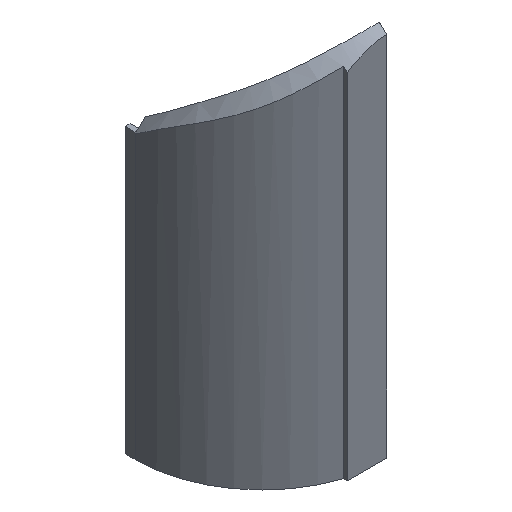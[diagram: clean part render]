
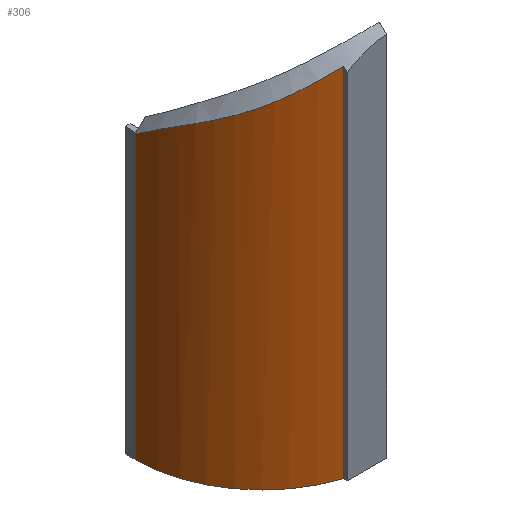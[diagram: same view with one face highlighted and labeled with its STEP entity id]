
A CAD part, isometric view. The second image highlights one B-rep face of the part: STEP entity #306.
In plain terms, the highlighted cylindrical face has radius 41.275 mm (diameter 82.55 mm), a partial arc.
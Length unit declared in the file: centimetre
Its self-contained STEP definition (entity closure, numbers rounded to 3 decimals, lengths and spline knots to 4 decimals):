
#105=CIRCLE('',#319,4.1275);
#107=CYLINDRICAL_SURFACE('',#320,4.1275);
#108=B_SPLINE_CURVE_WITH_KNOTS('',3,(#393,#394,#395,#396,#397,#398,#399,
#400,#401,#402,#403,#404,#405,#406),.UNSPECIFIED.,.F.,.U.,(4,2,2,2,2,2,4),
(0.,1.4346,2.3639,2.8681,3.5451,
5.0741,5.4483),.UNSPECIFIED.);
#115=VERTEX_POINT('',#364);
#118=VERTEX_POINT('',#407);
#131=VERTEX_POINT('',#475);
#133=VERTEX_POINT('',#484);
#135=VECTOR('',#324,1.);
#154=VECTOR('',#358,1.);
#156=LINE('',#363,#135);
#175=LINE('',#489,#154);
#180=EDGE_CURVE('',#118,#115,#108,.T.);
#199=EDGE_CURVE('',#131,#115,#156,.T.);
#203=EDGE_CURVE('',#131,#133,#105,.T.);
#206=EDGE_CURVE('',#133,#118,#175,.T.);
#258=ORIENTED_EDGE('',*,*,#180,.T.);
#259=ORIENTED_EDGE('',*,*,#199,.F.);
#260=ORIENTED_EDGE('',*,*,#203,.T.);
#261=ORIENTED_EDGE('',*,*,#206,.T.);
#280=EDGE_LOOP('',(#258,#259,#260,#261));
#293=FACE_BOUND('',#280,.T.);
#306=ADVANCED_FACE('',(#293),#107,.T.);
#319=AXIS2_PLACEMENT_3D('',#483,#352,#353);
#320=AXIS2_PLACEMENT_3D('',#488,#356,#357);
#324=DIRECTION('',(0.,0.,1.));
#352=DIRECTION('',(0.,0.,1.));
#353=DIRECTION('',(4.128,0.,0.));
#356=DIRECTION('',(0.,0.,1.));
#357=DIRECTION('',(4.128,0.,0.));
#358=DIRECTION('',(0.,0.,1.));
#363=CARTESIAN_POINT('',(12.6467,4.6025,0.));
#364=CARTESIAN_POINT('',(12.6467,4.6025,31.4533));
#393=CARTESIAN_POINT('',(15.494,0.6785,33.8982));
#394=CARTESIAN_POINT('',(15.0621,0.8194,33.7488));
#395=CARTESIAN_POINT('',(14.665,1.0278,33.5467));
#396=CARTESIAN_POINT('',(14.087,1.4568,33.2185));
#397=CARTESIAN_POINT('',(13.8762,1.6495,33.0891));
#398=CARTESIAN_POINT('',(13.583,1.9801,32.8971));
#399=CARTESIAN_POINT('',(13.4864,2.1022,32.8311));
#400=CARTESIAN_POINT('',(13.2763,2.4014,32.6772));
#401=CARTESIAN_POINT('',(13.1694,2.5812,32.5905));
#402=CARTESIAN_POINT('',(12.8678,3.1891,32.2961));
#403=CARTESIAN_POINT('',(12.7162,3.6745,32.0565));
#404=CARTESIAN_POINT('',(12.6526,4.344,31.6303));
#405=CARTESIAN_POINT('',(12.6467,4.4745,31.5432));
#406=CARTESIAN_POINT('',(12.6467,4.6025,31.4533));
#407=CARTESIAN_POINT('',(15.494,0.6785,33.8982));
#475=CARTESIAN_POINT('',(12.6467,4.6025,22.3037));
#483=CARTESIAN_POINT('',(16.7742,4.6025,22.3037));
#484=CARTESIAN_POINT('',(15.494,0.6785,22.3037));
#488=CARTESIAN_POINT('',(16.7742,4.6025,0.));
#489=CARTESIAN_POINT('',(15.494,0.6785,0.));
